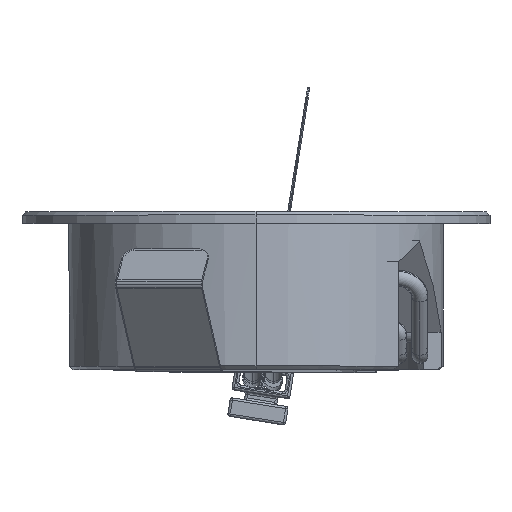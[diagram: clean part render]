
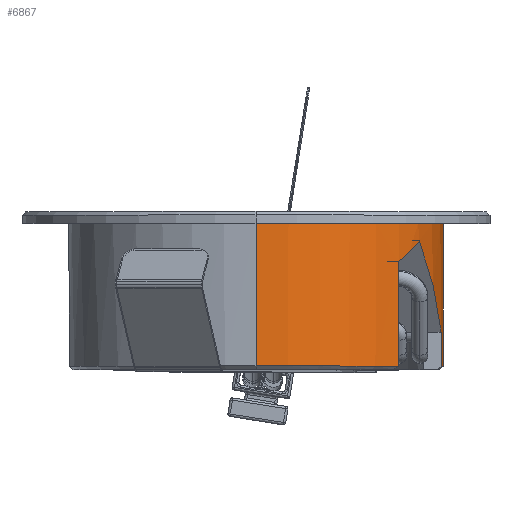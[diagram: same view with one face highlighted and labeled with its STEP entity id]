
A CAD part, top view. The second image highlights one B-rep face of the part: STEP entity #6867.
In plain terms, the highlighted cylindrical face has radius 16 mm (diameter 32 mm), a partial arc.
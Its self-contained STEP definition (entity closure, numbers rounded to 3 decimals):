
#270 = VERTEX_POINT ( 'NONE', #12463 ) ;
#326 = CARTESIAN_POINT ( 'NONE',  ( 13.955, -2.5, 7.827 ) ) ;
#550 = VERTEX_POINT ( 'NONE', #31135 ) ;
#851 = CARTESIAN_POINT ( 'NONE',  ( 12.849, -3.73, 9.59 ) ) ;
#874 = AXIS2_PLACEMENT_3D ( 'NONE', #26678, #7221, #19430 ) ;
#1277 = CARTESIAN_POINT ( 'NONE',  ( 0., -13.2, 16. ) ) ;
#1432 = EDGE_CURVE ( 'NONE', #9420, #22667, #17360, .T. ) ;
#1460 = AXIS2_PLACEMENT_3D ( 'NONE', #13512, #8692, #31209 ) ;
#1871 = CARTESIAN_POINT ( 'NONE',  ( 0., -10.2, -16. ) ) ;
#2048 = CARTESIAN_POINT ( 'NONE',  ( 2.344, 0., -15.827 ) ) ;
#2127 = EDGE_CURVE ( 'NONE', #14639, #18165, #27262, .T. ) ;
#2203 = CARTESIAN_POINT ( 'NONE',  ( 15.822, 9.252, 2.38 ) ) ;
#2421 = ORIENTED_EDGE ( 'NONE', *, *, #21400, .T. ) ;
#2427 = CARTESIAN_POINT ( 'NONE',  ( 0., 0., -16. ) ) ;
#4000 =( BOUNDED_CURVE ( )  B_SPLINE_CURVE ( 3, ( #22675, #22985, #851, #8217 ),
 .UNSPECIFIED., .F., .T. ) 
 B_SPLINE_CURVE_WITH_KNOTS ( ( 4, 4 ),
 ( 2.082, 2.277 ),
 .UNSPECIFIED. ) 
 CURVE ( )  GEOMETRIC_REPRESENTATION_ITEM ( )  RATIONAL_B_SPLINE_CURVE ( ( 1., 0.997, 0.997, 1. ) ) 
 REPRESENTATION_ITEM ( '' )  );
#4007 = EDGE_CURVE ( 'NONE', #30608, #18781, #28358, .T. ) ;
#4399 = ORIENTED_EDGE ( 'NONE', *, *, #30873, .F. ) ;
#5626 = DIRECTION ( 'NONE',  ( 0., 0., 1. ) ) ;
#5733 = EDGE_CURVE ( 'NONE', #14639, #9420, #25058, .T. ) ;
#5823 = CARTESIAN_POINT ( 'NONE',  ( 2.349, -10.785, -15.827 ) ) ;
#6457 = DIRECTION ( 'NONE',  ( 0., 1., 0. ) ) ;
#6521 = EDGE_CURVE ( 'NONE', #17092, #22904, #14704, .T. ) ;
#6573 = ORIENTED_EDGE ( 'NONE', *, *, #4007, .T. ) ;
#6867 = ADVANCED_FACE ( 'NONE', ( #13219 ), #18518, .T. ) ;
#6871 = CIRCLE ( 'NONE', #27924, 16. ) ;
#7221 = DIRECTION ( 'NONE',  ( 0., 1., 0. ) ) ;
#8031 = CARTESIAN_POINT ( 'NONE',  ( 12.176, -13.2, 10.38 ) ) ;
#8086 = CARTESIAN_POINT ( 'NONE',  ( 1.747, -10.195, -15.906 ) ) ;
#8217 = CARTESIAN_POINT ( 'NONE',  ( 12.176, -4.284, 10.38 ) ) ;
#8658 = LINE ( 'NONE', #2203, #19051 ) ;
#8692 = DIRECTION ( 'NONE',  ( 0., 1., 0. ) ) ;
#8904 = CIRCLE ( 'NONE', #26848, 16. ) ;
#9420 = VERTEX_POINT ( 'NONE', #21751 ) ;
#9593 = LINE ( 'NONE', #2048, #16643 ) ;
#9716 = B_SPLINE_CURVE_WITH_KNOTS ( 'NONE', 3,
 ( #17192, #19913, #27640, #29737, #15422, #24919 ),
 .UNSPECIFIED., .F., .F.,
 ( 4, 2, 4 ),
 ( 0., 0.5, 1. ),
 .UNSPECIFIED. ) ;
#9816 = ORIENTED_EDGE ( 'NONE', *, *, #30713, .T. ) ;
#10326 = EDGE_CURVE ( 'NONE', #12931, #16677, #4000, .T. ) ;
#10820 = CARTESIAN_POINT ( 'NONE',  ( 13.955, -2.5, 7.827 ) ) ;
#11072 = ORIENTED_EDGE ( 'NONE', *, *, #21582, .T. ) ;
#11981 = VERTEX_POINT ( 'NONE', #31334 ) ;
#12222 = DIRECTION ( 'NONE',  ( 0., 1., 0. ) ) ;
#12463 = CARTESIAN_POINT ( 'NONE',  ( 2.548, -13.2, -15.796 ) ) ;
#12517 = CARTESIAN_POINT ( 'NONE',  ( 15.533, -7.539, 4.299 ) ) ;
#12839 = CARTESIAN_POINT ( 'NONE',  ( 15.822, -10.279, 2.38 ) ) ;
#12931 = VERTEX_POINT ( 'NONE', #24619 ) ;
#13219 = FACE_OUTER_BOUND ( 'NONE', #26846, .T. ) ;
#13448 = VERTEX_POINT ( 'NONE', #1871 ) ;
#13512 = CARTESIAN_POINT ( 'NONE',  ( 0., -1., 0. ) ) ;
#13530 = CARTESIAN_POINT ( 'NONE',  ( 0., -13.2, 0. ) ) ;
#13703 = CARTESIAN_POINT ( 'NONE',  ( 0., 0., 0. ) ) ;
#13718 = ORIENTED_EDGE ( 'NONE', *, *, #19893, .T. ) ;
#14360 = ORIENTED_EDGE ( 'NONE', *, *, #1432, .F. ) ;
#14469 = CARTESIAN_POINT ( 'NONE',  ( 15.822, -10.279, 2.38 ) ) ;
#14639 = VERTEX_POINT ( 'NONE', #1277 ) ;
#14704 =( BOUNDED_CURVE ( )  B_SPLINE_CURVE ( 3, ( #12839, #12517, #24738, #326 ),
 .UNSPECIFIED., .F., .T. ) 
 B_SPLINE_CURVE_WITH_KNOTS ( ( 4, 4 ),
 ( 4.862, 5.224 ),
 .UNSPECIFIED. ) 
 CURVE ( )  GEOMETRIC_REPRESENTATION_ITEM ( )  RATIONAL_B_SPLINE_CURVE ( ( 1., 0.989, 0.989, 1. ) ) 
 REPRESENTATION_ITEM ( '' )  );
#14741 = DIRECTION ( 'NONE',  ( 0., 1., 0. ) ) ;
#14978 = ORIENTED_EDGE ( 'NONE', *, *, #19290, .T. ) ;
#15422 = CARTESIAN_POINT ( 'NONE',  ( 2.343, -13.054, -15.828 ) ) ;
#15781 = VECTOR ( 'NONE', #19569, 1000. ) ;
#15789 = CARTESIAN_POINT ( 'NONE',  ( 2.344, -11., -15.827 ) ) ;
#15927 = ORIENTED_EDGE ( 'NONE', *, *, #31654, .T. ) ;
#16177 = CARTESIAN_POINT ( 'NONE',  ( 1.529, -10.2, -15.927 ) ) ;
#16468 = AXIS2_PLACEMENT_3D ( 'NONE', #30559, #25703, #5626 ) ;
#16643 = VECTOR ( 'NONE', #14741, 1000. ) ;
#16677 = VERTEX_POINT ( 'NONE', #28524 ) ;
#17024 = EDGE_CURVE ( 'NONE', #11981, #270, #8904, .T. ) ;
#17092 = VERTEX_POINT ( 'NONE', #14469 ) ;
#17192 = CARTESIAN_POINT ( 'NONE',  ( 2.548, -13.2, -15.796 ) ) ;
#17360 = CIRCLE ( 'NONE', #1460, 16. ) ;
#17622 = ORIENTED_EDGE ( 'NONE', *, *, #2127, .T. ) ;
#17670 = CARTESIAN_POINT ( 'NONE',  ( 0., 0., 16. ) ) ;
#18024 = VECTOR ( 'NONE', #20189, 1000. ) ;
#18165 = VERTEX_POINT ( 'NONE', #8031 ) ;
#18458 = ORIENTED_EDGE ( 'NONE', *, *, #17024, .T. ) ;
#18518 = CYLINDRICAL_SURFACE ( 'NONE', #29176, 16. ) ;
#18781 = VERTEX_POINT ( 'NONE', #16177 ) ;
#19051 = VECTOR ( 'NONE', #21177, 1000. ) ;
#19290 = EDGE_CURVE ( 'NONE', #270, #550, #9716, .T. ) ;
#19430 = DIRECTION ( 'NONE',  ( 0., 0., -1. ) ) ;
#19569 = DIRECTION ( 'NONE',  ( 0., 1., 0. ) ) ;
#19893 = EDGE_CURVE ( 'NONE', #13448, #22667, #24445, .T. ) ;
#19913 = CARTESIAN_POINT ( 'NONE',  ( 2.493, -13.201, -15.805 ) ) ;
#20189 = DIRECTION ( 'NONE',  ( 0., -1., 0. ) ) ;
#20593 = CARTESIAN_POINT ( 'NONE',  ( 1.939, -10.273, -15.883 ) ) ;
#20927 = CARTESIAN_POINT ( 'NONE',  ( 1.529, -10.2, -15.927 ) ) ;
#21177 = DIRECTION ( 'NONE',  ( 0., -1., 0. ) ) ;
#21400 = EDGE_CURVE ( 'NONE', #12931, #22904, #6871, .T. ) ;
#21582 = EDGE_CURVE ( 'NONE', #550, #30608, #9593, .T. ) ;
#21751 = CARTESIAN_POINT ( 'NONE',  ( 0., -1., 16. ) ) ;
#22667 = VERTEX_POINT ( 'NONE', #29474 ) ;
#22675 = CARTESIAN_POINT ( 'NONE',  ( 13.951, -2.5, 7.833 ) ) ;
#22904 = VERTEX_POINT ( 'NONE', #10820 ) ;
#22985 = CARTESIAN_POINT ( 'NONE',  ( 13.443, -3.134, 8.738 ) ) ;
#23010 = CARTESIAN_POINT ( 'NONE',  ( 2.269, -10.597, -15.839 ) ) ;
#23016 = DIRECTION ( 'NONE',  ( 0., 1., 0. ) ) ;
#23106 = DIRECTION ( 'NONE',  ( 0., 0., 1. ) ) ;
#23272 = DIRECTION ( 'NONE',  ( 0., 1., 0. ) ) ;
#23583 = CARTESIAN_POINT ( 'NONE',  ( 2.344, -11., -15.827 ) ) ;
#24445 = LINE ( 'NONE', #2427, #30987 ) ;
#24459 = CIRCLE ( 'NONE', #874, 16. ) ;
#24619 = CARTESIAN_POINT ( 'NONE',  ( 13.951, -2.5, 7.833 ) ) ;
#24707 = ORIENTED_EDGE ( 'NONE', *, *, #5733, .F. ) ;
#24738 = CARTESIAN_POINT ( 'NONE',  ( 14.904, -4.917, 6.135 ) ) ;
#24919 = CARTESIAN_POINT ( 'NONE',  ( 2.344, -13., -15.827 ) ) ;
#25058 = LINE ( 'NONE', #17670, #15781 ) ;
#25605 = ORIENTED_EDGE ( 'NONE', *, *, #10326, .F. ) ;
#25703 = DIRECTION ( 'NONE',  ( 0., 1., 0. ) ) ;
#26219 = DIRECTION ( 'NONE',  ( 0., 0., 1. ) ) ;
#26678 = CARTESIAN_POINT ( 'NONE',  ( 0., -10.2, 0. ) ) ;
#26846 = EDGE_LOOP ( 'NONE', ( #15927, #13718, #14360, #24707, #17622, #4399, #25605, #2421, #31285, #9816, #18458, #14978, #11072, #6573 ) ) ;
#26848 = AXIS2_PLACEMENT_3D ( 'NONE', #13530, #6457, #26219 ) ;
#26962 = LINE ( 'NONE', #27111, #18024 ) ;
#27111 = CARTESIAN_POINT ( 'NONE',  ( 12.176, 9.252, 10.38 ) ) ;
#27262 = CIRCLE ( 'NONE', #16468, 16. ) ;
#27640 = CARTESIAN_POINT ( 'NONE',  ( 2.445, -13.182, -15.812 ) ) ;
#27924 = AXIS2_PLACEMENT_3D ( 'NONE', #28436, #23272, #23106 ) ;
#28358 = B_SPLINE_CURVE_WITH_KNOTS ( 'NONE', 3,
 ( #15789, #5823, #23010, #20593, #8086, #20927 ),
 .UNSPECIFIED., .F., .F.,
 ( 4, 2, 4 ),
 ( 0., 0.5, 1. ),
 .UNSPECIFIED. ) ;
#28436 = CARTESIAN_POINT ( 'NONE',  ( 0., -2.5, 0. ) ) ;
#28524 = CARTESIAN_POINT ( 'NONE',  ( 12.176, -4.284, 10.38 ) ) ;
#29176 = AXIS2_PLACEMENT_3D ( 'NONE', #13703, #23016, #30278 ) ;
#29474 = CARTESIAN_POINT ( 'NONE',  ( 0., -1., -16. ) ) ;
#29737 = CARTESIAN_POINT ( 'NONE',  ( 2.363, -13.101, -15.825 ) ) ;
#30278 = DIRECTION ( 'NONE',  ( 0., 0., 1. ) ) ;
#30559 = CARTESIAN_POINT ( 'NONE',  ( 0., -13.2, 0. ) ) ;
#30608 = VERTEX_POINT ( 'NONE', #23583 ) ;
#30713 = EDGE_CURVE ( 'NONE', #17092, #11981, #8658, .T. ) ;
#30873 = EDGE_CURVE ( 'NONE', #16677, #18165, #26962, .T. ) ;
#30987 = VECTOR ( 'NONE', #12222, 1000. ) ;
#31135 = CARTESIAN_POINT ( 'NONE',  ( 2.344, -13., -15.827 ) ) ;
#31209 = DIRECTION ( 'NONE',  ( 0., 0., 1. ) ) ;
#31285 = ORIENTED_EDGE ( 'NONE', *, *, #6521, .F. ) ;
#31334 = CARTESIAN_POINT ( 'NONE',  ( 15.822, -13.2, 2.38 ) ) ;
#31654 = EDGE_CURVE ( 'NONE', #18781, #13448, #24459, .T. ) ;
